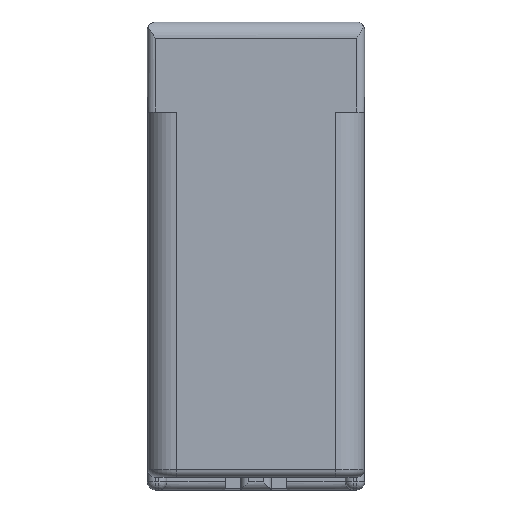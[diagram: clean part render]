
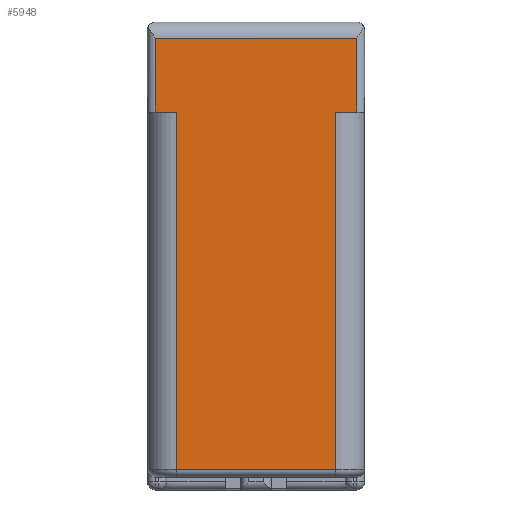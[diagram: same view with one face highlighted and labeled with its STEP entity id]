
A CAD part, front view. The second image highlights one B-rep face of the part: STEP entity #5948.
In plain terms, the highlighted planar face has unit normal (0, -1, 0).
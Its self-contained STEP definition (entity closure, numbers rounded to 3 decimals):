
#709=DIRECTION('',(-1.,0.,0.));
#710=VECTOR('',#709,12.5);
#711=CARTESIAN_POINT('',(6.25,0.,-1.));
#712=LINE('',#711,#710);
#2013=DIRECTION('',(1.,0.,0.));
#2014=VECTOR('',#2013,9.9);
#2015=CARTESIAN_POINT('',(-4.95,0.,-27.8));
#2016=LINE('',#2015,#2014);
#2026=DIRECTION('',(0.,0.,-1.));
#2027=VECTOR('',#2026,22.2);
#2028=CARTESIAN_POINT('',(-4.95,0.,-5.6));
#2029=LINE('',#2028,#2027);
#2030=DIRECTION('',(1.,0.,0.));
#2031=VECTOR('',#2030,1.3);
#2032=CARTESIAN_POINT('',(-6.25,0.,-5.6));
#2033=LINE('',#2032,#2031);
#2034=DIRECTION('',(0.,0.,1.));
#2035=VECTOR('',#2034,4.6);
#2036=CARTESIAN_POINT('',(-6.25,0.,-5.6));
#2037=LINE('',#2036,#2035);
#2038=DIRECTION('',(0.,0.,1.));
#2039=VECTOR('',#2038,4.6);
#2040=CARTESIAN_POINT('',(6.25,0.,-5.6));
#2041=LINE('',#2040,#2039);
#2042=DIRECTION('',(1.,0.,0.));
#2043=VECTOR('',#2042,1.3);
#2044=CARTESIAN_POINT('',(4.95,0.,-5.6));
#2045=LINE('',#2044,#2043);
#2046=DIRECTION('',(0.,0.,-1.));
#2047=VECTOR('',#2046,22.2);
#2048=CARTESIAN_POINT('',(4.95,0.,-5.6));
#2049=LINE('',#2048,#2047);
#3164=CARTESIAN_POINT('',(6.25,0.,-1.));
#3165=CARTESIAN_POINT('',(-6.25,0.,-1.));
#3166=VERTEX_POINT('',#3164);
#3167=VERTEX_POINT('',#3165);
#3180=CARTESIAN_POINT('',(-6.25,0.,-5.6));
#3181=CARTESIAN_POINT('',(-4.95,0.,-5.6));
#3182=VERTEX_POINT('',#3180);
#3183=VERTEX_POINT('',#3181);
#3184=CARTESIAN_POINT('',(4.95,0.,-5.6));
#3185=CARTESIAN_POINT('',(6.25,0.,-5.6));
#3186=VERTEX_POINT('',#3184);
#3187=VERTEX_POINT('',#3185);
#3206=CARTESIAN_POINT('',(-4.95,0.,-27.8));
#3207=VERTEX_POINT('',#3206);
#3210=CARTESIAN_POINT('',(4.95,0.,-27.8));
#3211=VERTEX_POINT('',#3210);
#5931=CARTESIAN_POINT('',(-6.75,0.,0.));
#5932=DIRECTION('',(0.,-1.,0.));
#5933=DIRECTION('',(0.,0.,-1.));
#5934=AXIS2_PLACEMENT_3D('',#5931,#5932,#5933);
#5935=PLANE('',#5934);
#5936=ORIENTED_EDGE('',*,*,#5922,.F.);
#5937=ORIENTED_EDGE('',*,*,#4078,.F.);
#5938=ORIENTED_EDGE('',*,*,#4091,.F.);
#5939=ORIENTED_EDGE('',*,*,#4121,.T.);
#5940=ORIENTED_EDGE('',*,*,#4137,.F.);
#5942=ORIENTED_EDGE('',*,*,#5941,.F.);
#5943=ORIENTED_EDGE('',*,*,#4106,.F.);
#5945=ORIENTED_EDGE('',*,*,#5944,.T.);
#5946=EDGE_LOOP('',(#5936,#5937,#5938,#5939,#5940,#5942,#5943,#5945));
#5947=FACE_OUTER_BOUND('',#5946,.F.);
#5948=ADVANCED_FACE('',(#5947),#5935,.T.);
#4078=EDGE_CURVE('',#3183,#3207,#2029,.T.);
#4091=EDGE_CURVE('',#3182,#3183,#2033,.T.);
#4106=EDGE_CURVE('',#3186,#3187,#2045,.T.);
#4121=EDGE_CURVE('',#3182,#3167,#2037,.T.);
#4137=EDGE_CURVE('',#3166,#3167,#712,.T.);
#5922=EDGE_CURVE('',#3207,#3211,#2016,.T.);
#5941=EDGE_CURVE('',#3187,#3166,#2041,.T.);
#5944=EDGE_CURVE('',#3186,#3211,#2049,.T.);
